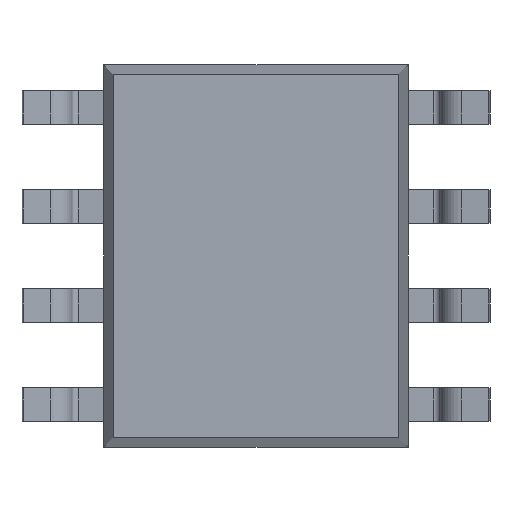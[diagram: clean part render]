
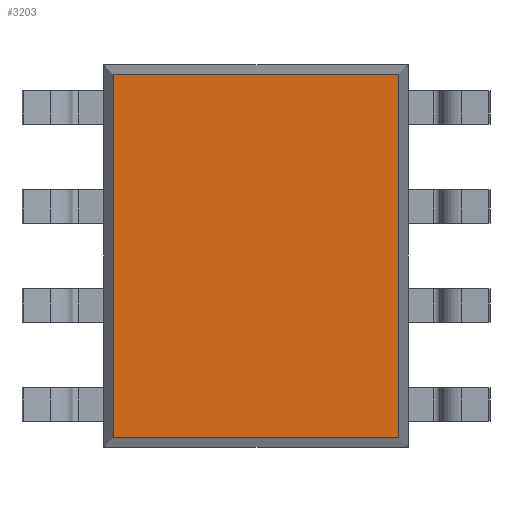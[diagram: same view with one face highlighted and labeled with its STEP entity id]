
A CAD part, front view. The second image highlights one B-rep face of the part: STEP entity #3203.
In plain terms, the highlighted planar face has unit normal (0, -1, 0).
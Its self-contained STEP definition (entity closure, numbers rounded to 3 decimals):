
#104 = LINE ( 'NONE', #3525, #1783 ) ;
#368 = VECTOR ( 'NONE', #2718, 1000. ) ;
#556 = ORIENTED_EDGE ( 'NONE', *, *, #2815, .T. ) ;
#689 = DIRECTION ( 'NONE',  ( 0., 0., -1. ) ) ;
#697 = VERTEX_POINT ( 'NONE', #1216 ) ;
#1002 = FACE_OUTER_BOUND ( 'NONE', #1050, .T. ) ;
#1038 = CARTESIAN_POINT ( 'NONE',  ( 0., 0.1, 0. ) ) ;
#1050 = EDGE_LOOP ( 'NONE', ( #1054, #556, #3403, #1836 ) ) ;
#1054 = ORIENTED_EDGE ( 'NONE', *, *, #2865, .T. ) ;
#1216 = CARTESIAN_POINT ( 'NONE',  ( 1.83, 0.1, 2.33 ) ) ;
#1407 = VERTEX_POINT ( 'NONE', #1960 ) ;
#1683 = LINE ( 'NONE', #2225, #368 ) ;
#1783 = VECTOR ( 'NONE', #689, 1000. ) ;
#1784 = CARTESIAN_POINT ( 'NONE',  ( -1.83, 0.1, 2.33 ) ) ;
#1819 = CARTESIAN_POINT ( 'NONE',  ( -1.95, 0.1, 2.33 ) ) ;
#1836 = ORIENTED_EDGE ( 'NONE', *, *, #2543, .T. ) ;
#1960 = CARTESIAN_POINT ( 'NONE',  ( 1.83, 0.1, -2.33 ) ) ;
#2027 = VERTEX_POINT ( 'NONE', #2565 ) ;
#2154 = LINE ( 'NONE', #1819, #2572 ) ;
#2204 = VERTEX_POINT ( 'NONE', #1784 ) ;
#2225 = CARTESIAN_POINT ( 'NONE',  ( 1.83, 0.1, 2.45 ) ) ;
#2313 = DIRECTION ( 'NONE',  ( 0., 0., 1. ) ) ;
#2388 = VECTOR ( 'NONE', #3249, 1000. ) ;
#2519 = EDGE_CURVE ( 'NONE', #1407, #697, #1683, .T. ) ;
#2543 = EDGE_CURVE ( 'NONE', #697, #2204, #2154, .T. ) ;
#2565 = CARTESIAN_POINT ( 'NONE',  ( -1.83, 0.1, -2.33 ) ) ;
#2572 = VECTOR ( 'NONE', #3637, 1000. ) ;
#2718 = DIRECTION ( 'NONE',  ( 0., 0., 1. ) ) ;
#2815 = EDGE_CURVE ( 'NONE', #2027, #1407, #3853, .T. ) ;
#2865 = EDGE_CURVE ( 'NONE', #2204, #2027, #104, .T. ) ;
#2866 = PLANE ( 'NONE',  #4106 ) ;
#3203 = ADVANCED_FACE ( 'NONE', ( #1002 ), #2866, .F. ) ;
#3249 = DIRECTION ( 'NONE',  ( 1., 0., 0. ) ) ;
#3403 = ORIENTED_EDGE ( 'NONE', *, *, #2519, .T. ) ;
#3525 = CARTESIAN_POINT ( 'NONE',  ( -1.83, 0.1, -2.45 ) ) ;
#3539 = DIRECTION ( 'NONE',  ( 0., 1., 0. ) ) ;
#3587 = CARTESIAN_POINT ( 'NONE',  ( 1.95, 0.1, -2.33 ) ) ;
#3637 = DIRECTION ( 'NONE',  ( -1., 0., 0. ) ) ;
#3853 = LINE ( 'NONE', #3587, #2388 ) ;
#4106 = AXIS2_PLACEMENT_3D ( 'NONE', #1038, #3539, #2313 ) ;
